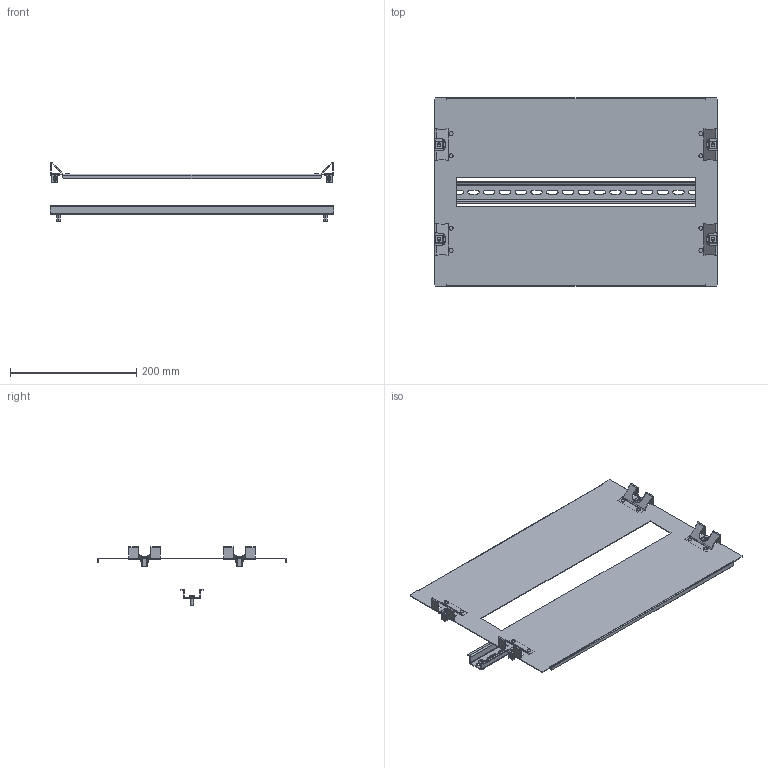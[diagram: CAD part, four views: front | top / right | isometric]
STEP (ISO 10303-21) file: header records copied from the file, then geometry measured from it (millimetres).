
FILE_DESCRIPTION (( 'STEP AP203' ), '1' );
FILE_NAME ('R5ISP530.STEP', '2022-04-13T09:28:37', ( '' ), ( '' ), 'SwSTEP 2.0', 'SolidWorks 2020', '' );
FILE_SCHEMA (( 'CONFIG_CONTROL_DESIGN' ));
Length unit declared in the file: millimetre
Products named in the file (11): RB.0376.00.00.0_-00; R5ISP530; RB.0517.00.00.0_-02; 294-9118.00-00050; RB.0392.00.02.0_-01; RB.2137.00.00.0 捘_-04; RB.2137.00.01.0_-04; M5x12 DIN 7500 C Torx Zinc_stright
Assembly tree (17 placements, depth 3):
  R5ISP530
    RB.2137.00.00.0 捘_-04
      RB.2137.00.01.0_-04
      RB.0392.00.02.0_-01
      RB.0392.00.02.0_-01
      RB.0392.00.02.0_-01
      RB.0392.00.02.0_-01
    RB.0517.00.00.0_-02
    M5x12 DIN 7500 C Torx Zinc_stright  x2
    294-9118.00-00050  x4
    RB.0376.00.00.0_-00  x4
Bounding box: 450 x 298 x 93.03 mm (x, y, z)
Volume: 170873.3 mm3; surface area: 319228.3 mm2
Topology: 16 solids, 16 shells, 1114 faces, 2758 edges, 1714 vertices
Faces by surface type: plane 756, cylinder 238, cone 40, bspline 36, torus 24, sphere 20
Entity records: 22243 total; most frequent: CARTESIAN_POINT 3964, DIRECTION 3544, ORIENTED_EDGE 3448, EDGE_CURVE 1724, VECTOR 1250, LINE 1250, AXIS2_PLACEMENT_3D 1147, VERTEX_POINT 1087
